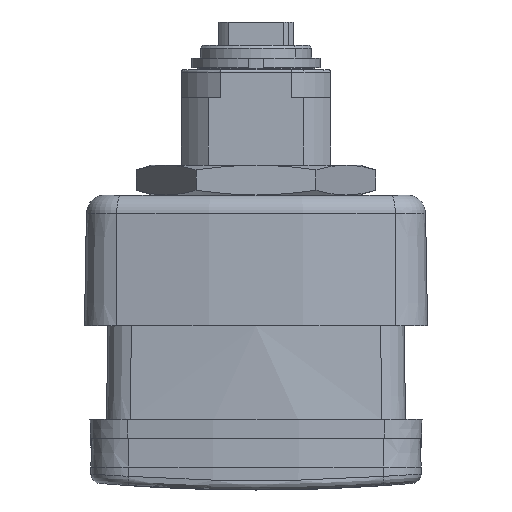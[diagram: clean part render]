
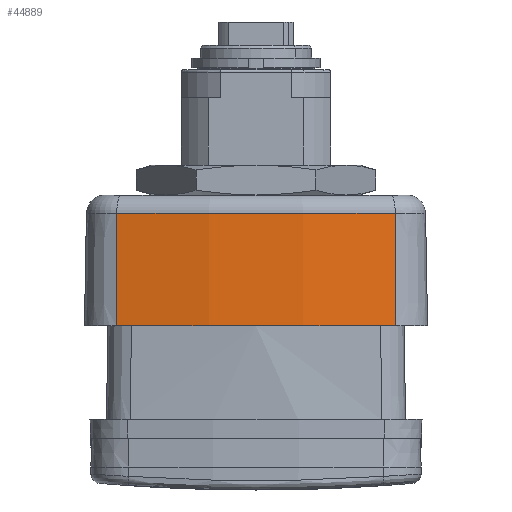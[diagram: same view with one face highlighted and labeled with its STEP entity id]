
A CAD part, front view. The second image highlights one B-rep face of the part: STEP entity #44889.
In plain terms, the highlighted conical face has half-angle 1 degrees and reference radius 70 mm.
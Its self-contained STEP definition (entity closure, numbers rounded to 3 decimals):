
#1460 = CIRCLE ( 'NONE', #35639, 69.843 ) ;
#4874 = DIRECTION ( 'NONE',  ( -1., 0., 0. ) ) ;
#5566 = VERTEX_POINT ( 'NONE', #14768 ) ;
#10676 = CARTESIAN_POINT ( 'NONE',  ( 14.883, -16.524, 21.035 ) ) ;
#11177 = CARTESIAN_POINT ( 'NONE',  ( -14.883, -16.524, 21.035 ) ) ;
#11668 = DIRECTION ( 'NONE',  ( -0.004, -0.017, -1. ) ) ;
#13522 = DIRECTION ( 'NONE',  ( 1., 0., 0. ) ) ;
#13793 = LINE ( 'NONE', #58386, #31813 ) ;
#14407 = EDGE_CURVE ( 'NONE', #61833, #5566, #18489, .T. ) ;
#14768 = CARTESIAN_POINT ( 'NONE',  ( -14.928, -16.729, 9. ) ) ;
#15431 = CONICAL_SURFACE ( 'NONE', #22280, 70., 0.017 ) ;
#18019 = CARTESIAN_POINT ( 'NONE',  ( 0., 51.5, 21.035 ) ) ;
#18489 = LINE ( 'NONE', #60618, #44517 ) ;
#20282 = DIRECTION ( 'NONE',  ( 0., 0., -1. ) ) ;
#20971 = CARTESIAN_POINT ( 'NONE',  ( 0., 51.5, 0. ) ) ;
#21593 = EDGE_CURVE ( 'NONE', #33950, #67866, #13793, .T. ) ;
#22280 = AXIS2_PLACEMENT_3D ( 'NONE', #20971, #20282, #4874 ) ;
#25200 = DIRECTION ( 'NONE',  ( 0.004, -0.017, -1. ) ) ;
#25531 = ORIENTED_EDGE ( 'NONE', *, *, #38261, .T. ) ;
#26530 = AXIS2_PLACEMENT_3D ( 'NONE', #18019, #51172, #46193 ) ;
#31813 = VECTOR ( 'NONE', #25200, 1000. ) ;
#32738 = FACE_OUTER_BOUND ( 'NONE', #47476, .T. ) ;
#33950 = VERTEX_POINT ( 'NONE', #10676 ) ;
#35639 = AXIS2_PLACEMENT_3D ( 'NONE', #57415, #62434, #13522 ) ;
#38261 = EDGE_CURVE ( 'NONE', #5566, #67866, #1460, .T. ) ;
#38579 = EDGE_CURVE ( 'NONE', #33950, #61833, #59625, .T. ) ;
#40398 = ORIENTED_EDGE ( 'NONE', *, *, #14407, .T. ) ;
#41969 = CARTESIAN_POINT ( 'NONE',  ( 14.928, -16.729, 9. ) ) ;
#43339 = ORIENTED_EDGE ( 'NONE', *, *, #38579, .T. ) ;
#44517 = VECTOR ( 'NONE', #11668, 1000. ) ;
#44889 = ADVANCED_FACE ( 'NONE', ( #32738 ), #15431, .T. ) ;
#45110 = ORIENTED_EDGE ( 'NONE', *, *, #21593, .F. ) ;
#46193 = DIRECTION ( 'NONE',  ( -1., 0., 0. ) ) ;
#47476 = EDGE_LOOP ( 'NONE', ( #40398, #25531, #45110, #43339 ) ) ;
#51172 = DIRECTION ( 'NONE',  ( 0., 0., -1. ) ) ;
#57415 = CARTESIAN_POINT ( 'NONE',  ( 0., 51.5, 9. ) ) ;
#58386 = CARTESIAN_POINT ( 'NONE',  ( 14.962, -16.882, 0. ) ) ;
#59625 = CIRCLE ( 'NONE', #26530, 69.633 ) ;
#60618 = CARTESIAN_POINT ( 'NONE',  ( -14.962, -16.882, 0. ) ) ;
#61833 = VERTEX_POINT ( 'NONE', #11177 ) ;
#62434 = DIRECTION ( 'NONE',  ( 0., 0., 1. ) ) ;
#67866 = VERTEX_POINT ( 'NONE', #41969 ) ;
